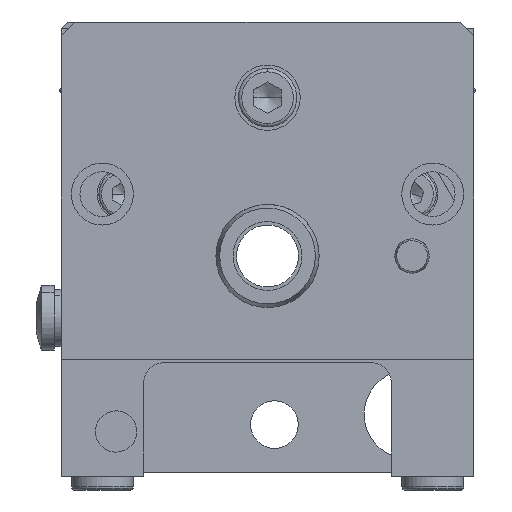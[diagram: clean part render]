
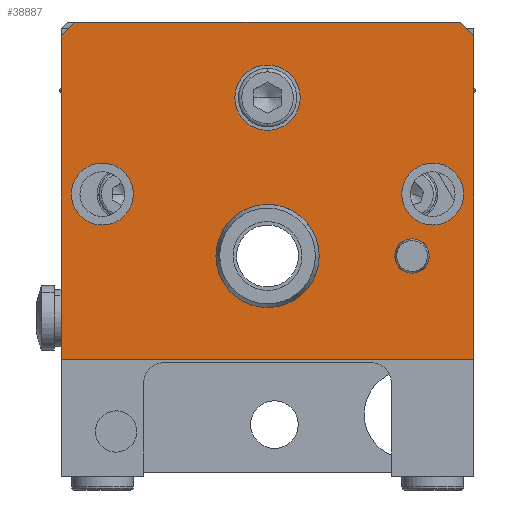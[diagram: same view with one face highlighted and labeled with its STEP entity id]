
A CAD part, front view. The second image highlights one B-rep face of the part: STEP entity #38887.
In plain terms, the highlighted planar face has unit normal (0, -1, 0).
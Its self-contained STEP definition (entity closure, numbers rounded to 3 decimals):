
#34905=CARTESIAN_POINT('',(-28.5,-39.,27.383));
#34906=VERTEX_POINT('',#34905);
#34922=CARTESIAN_POINT('',(-19.5,-39.,27.383));
#34923=VERTEX_POINT('',#34922);
#34930=CARTESIAN_POINT('',(-24.,-39.,27.383));
#34931=DIRECTION('',(0.0,1.0,0.0));
#34932=DIRECTION('',(-1.0,0.0,0.0));
#34933=AXIS2_PLACEMENT_3D('',#34930,#34931,#34932);
#34934=CIRCLE('',#34933,4.5);
#34935=EDGE_CURVE('',#34906,#34923,#34934,.T.);
#34968=CARTESIAN_POINT('',(19.5,-39.0,27.383));
#34969=VERTEX_POINT('',#34968);
#34985=CARTESIAN_POINT('',(28.5,-39.0,27.383));
#34986=VERTEX_POINT('',#34985);
#34993=CARTESIAN_POINT('',(24.,-39.0,27.383));
#34994=DIRECTION('',(0.0,1.0,0.0));
#34995=DIRECTION('',(-1.0,0.0,0.0));
#34996=AXIS2_PLACEMENT_3D('',#34993,#34994,#34995);
#34997=CIRCLE('',#34996,4.5);
#34998=EDGE_CURVE('',#34969,#34986,#34997,.T.);
#35031=CARTESIAN_POINT('',(-4.75,-39.,41.383));
#35032=VERTEX_POINT('',#35031);
#35048=CARTESIAN_POINT('',(4.75,-39.,41.383));
#35049=VERTEX_POINT('',#35048);
#35056=CARTESIAN_POINT('',(0.,-39.,41.383));
#35057=DIRECTION('',(0.0,1.0,0.0));
#35058=DIRECTION('',(-1.0,0.0,0.0));
#35059=AXIS2_PLACEMENT_3D('',#35056,#35057,#35058);
#35060=CIRCLE('',#35059,4.75);
#35061=EDGE_CURVE('',#35032,#35049,#35060,.T.);
#35380=CARTESIAN_POINT('',(18.5,-39.0,18.383));
#35381=VERTEX_POINT('',#35380);
#35390=CARTESIAN_POINT('',(23.5,-39.0,18.383));
#35391=VERTEX_POINT('',#35390);
#35392=CARTESIAN_POINT('',(21.,-39.0,18.383));
#35393=DIRECTION('',(0.0,1.0,0.0));
#35394=DIRECTION('',(-1.0,0.0,0.0));
#35395=AXIS2_PLACEMENT_3D('',#35392,#35393,#35394);
#35396=CIRCLE('',#35395,2.5);
#35397=EDGE_CURVE('',#35391,#35381,#35396,.T.);
#36006=CARTESIAN_POINT('',(4.789,-39.0,12.612));
#36007=VERTEX_POINT('',#36006);
#36021=CARTESIAN_POINT('',(-4.789,-39.0,24.155));
#36022=VERTEX_POINT('',#36021);
#36029=CARTESIAN_POINT('',(0.,-39.,18.383));
#36030=DIRECTION('',(0.0,1.0,0.0));
#36031=DIRECTION('',(-1.0,0.0,0.0));
#36032=AXIS2_PLACEMENT_3D('',#36029,#36030,#36031);
#36033=CIRCLE('',#36032,7.5);
#36034=EDGE_CURVE('',#36007,#36022,#36033,.T.);
#37969=CARTESIAN_POINT('',(7.5,-39.0,18.383));
#37970=VERTEX_POINT('',#37969);
#37971=CARTESIAN_POINT('',(0.,-39.,18.383));
#37972=DIRECTION('',(0.0,1.0,0.0));
#37973=DIRECTION('',(-1.0,0.0,0.0));
#37974=AXIS2_PLACEMENT_3D('',#37971,#37972,#37973);
#37975=CIRCLE('',#37974,7.5);
#37976=EDGE_CURVE('',#37970,#36007,#37975,.T.);
#37978=CARTESIAN_POINT('',(0.,-39.,18.383));
#37979=DIRECTION('',(0.0,1.0,0.0));
#37980=DIRECTION('',(-1.0,0.0,0.0));
#37981=AXIS2_PLACEMENT_3D('',#37978,#37979,#37980);
#37982=CIRCLE('',#37981,7.5);
#37983=EDGE_CURVE('',#36022,#37970,#37982,.T.);
#38733=CARTESIAN_POINT('',(-30.,-39.,50.383));
#38734=VERTEX_POINT('',#38733);
#38735=CARTESIAN_POINT('',(-28.,-39.,52.383));
#38736=VERTEX_POINT('',#38735);
#38737=CARTESIAN_POINT('',(-30.,-39.,50.383));
#38738=DIRECTION('',(0.707,0.,0.707));
#38739=VECTOR('',#38738,2.828);
#38740=LINE('',#38737,#38739);
#38741=EDGE_CURVE('',#38734,#38736,#38740,.T.);
#38765=CARTESIAN_POINT('',(28.,-39.0,52.383));
#38766=VERTEX_POINT('',#38765);
#38767=CARTESIAN_POINT('',(-28.,-39.,52.383));
#38768=DIRECTION('',(1.0,0.0,0.0));
#38769=VECTOR('',#38768,56.);
#38770=LINE('',#38767,#38769);
#38771=EDGE_CURVE('',#38736,#38766,#38770,.T.);
#38803=CARTESIAN_POINT('',(0.,-39.,27.883));
#38804=DIRECTION('',(0.0,-1.0,0.0));
#38805=DIRECTION('',(0.0,0.0,1.0));
#38806=AXIS2_PLACEMENT_3D('',#38803,#38804,#38805);
#38807=PLANE('',#38806);
#38808=ORIENTED_EDGE('',*,*,#38741,.F.);
#38809=CARTESIAN_POINT('',(-30.,-39.,3.383));
#38810=VERTEX_POINT('',#38809);
#38811=CARTESIAN_POINT('',(-30.,-39.,3.383));
#38812=DIRECTION('',(0.0,0.0,1.0));
#38813=VECTOR('',#38812,47.0);
#38814=LINE('',#38811,#38813);
#38815=EDGE_CURVE('',#38810,#38734,#38814,.T.);
#38816=ORIENTED_EDGE('',*,*,#38815,.F.);
#38817=CARTESIAN_POINT('',(30.,-39.,3.383));
#38818=VERTEX_POINT('',#38817);
#38819=CARTESIAN_POINT('',(30.,-39.,3.383));
#38820=DIRECTION('',(-1.0,0.0,0.0));
#38821=VECTOR('',#38820,60.0);
#38822=LINE('',#38819,#38821);
#38823=EDGE_CURVE('',#38818,#38810,#38822,.T.);
#38824=ORIENTED_EDGE('',*,*,#38823,.F.);
#38825=CARTESIAN_POINT('',(30.,-39.0,50.383));
#38826=VERTEX_POINT('',#38825);
#38827=CARTESIAN_POINT('',(30.,-39.0,50.383));
#38828=DIRECTION('',(0.0,0.0,-1.0));
#38829=VECTOR('',#38828,47.);
#38830=LINE('',#38827,#38829);
#38831=EDGE_CURVE('',#38826,#38818,#38830,.T.);
#38832=ORIENTED_EDGE('',*,*,#38831,.F.);
#38833=CARTESIAN_POINT('',(28.,-39.0,52.383));
#38834=DIRECTION('',(0.707,0.0,-0.707));
#38835=VECTOR('',#38834,2.828);
#38836=LINE('',#38833,#38835);
#38837=EDGE_CURVE('',#38766,#38826,#38836,.T.);
#38838=ORIENTED_EDGE('',*,*,#38837,.F.);
#38839=ORIENTED_EDGE('',*,*,#38771,.F.);
#38840=EDGE_LOOP('',(#38808,#38816,#38824,#38832,#38838,#38839));
#38841=FACE_OUTER_BOUND('',#38840,.T.);
#38842=ORIENTED_EDGE('',*,*,#35397,.T.);
#38843=CARTESIAN_POINT('',(21.,-39.0,18.383));
#38844=DIRECTION('',(0.0,1.0,0.0));
#38845=DIRECTION('',(-1.0,0.0,0.0));
#38846=AXIS2_PLACEMENT_3D('',#38843,#38844,#38845);
#38847=CIRCLE('',#38846,2.5);
#38848=EDGE_CURVE('',#35381,#35391,#38847,.T.);
#38849=ORIENTED_EDGE('',*,*,#38848,.T.);
#38850=EDGE_LOOP('',(#38842,#38849));
#38851=FACE_BOUND('',#38850,.T.);
#38852=ORIENTED_EDGE('',*,*,#35061,.T.);
#38853=CARTESIAN_POINT('',(0.,-39.,41.383));
#38854=DIRECTION('',(0.0,1.0,0.0));
#38855=DIRECTION('',(-1.0,0.0,0.0));
#38856=AXIS2_PLACEMENT_3D('',#38853,#38854,#38855);
#38857=CIRCLE('',#38856,4.75);
#38858=EDGE_CURVE('',#35049,#35032,#38857,.T.);
#38859=ORIENTED_EDGE('',*,*,#38858,.T.);
#38860=EDGE_LOOP('',(#38852,#38859));
#38861=FACE_BOUND('',#38860,.T.);
#38862=ORIENTED_EDGE('',*,*,#34998,.T.);
#38863=CARTESIAN_POINT('',(24.,-39.0,27.383));
#38864=DIRECTION('',(0.0,1.0,0.0));
#38865=DIRECTION('',(-1.0,0.0,0.0));
#38866=AXIS2_PLACEMENT_3D('',#38863,#38864,#38865);
#38867=CIRCLE('',#38866,4.5);
#38868=EDGE_CURVE('',#34986,#34969,#38867,.T.);
#38869=ORIENTED_EDGE('',*,*,#38868,.T.);
#38870=EDGE_LOOP('',(#38862,#38869));
#38871=FACE_BOUND('',#38870,.T.);
#38872=ORIENTED_EDGE('',*,*,#34935,.T.);
#38873=CARTESIAN_POINT('',(-24.,-39.,27.383));
#38874=DIRECTION('',(0.0,1.0,0.0));
#38875=DIRECTION('',(-1.0,0.0,0.0));
#38876=AXIS2_PLACEMENT_3D('',#38873,#38874,#38875);
#38877=CIRCLE('',#38876,4.5);
#38878=EDGE_CURVE('',#34923,#34906,#38877,.T.);
#38879=ORIENTED_EDGE('',*,*,#38878,.T.);
#38880=EDGE_LOOP('',(#38872,#38879));
#38881=FACE_BOUND('',#38880,.T.);
#38882=ORIENTED_EDGE('',*,*,#37976,.T.);
#38883=ORIENTED_EDGE('',*,*,#36034,.T.);
#38884=ORIENTED_EDGE('',*,*,#37983,.T.);
#38885=EDGE_LOOP('',(#38882,#38883,#38884));
#38886=FACE_BOUND('',#38885,.T.);
#38887=ADVANCED_FACE('',(#38841,#38851,#38861,#38871,#38881,#38886),#38807,.T.);
